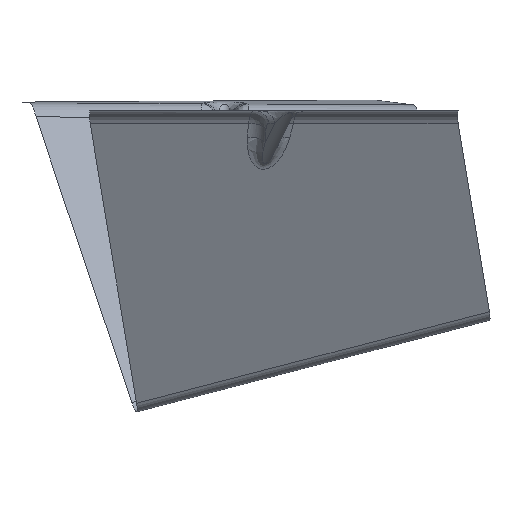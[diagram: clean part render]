
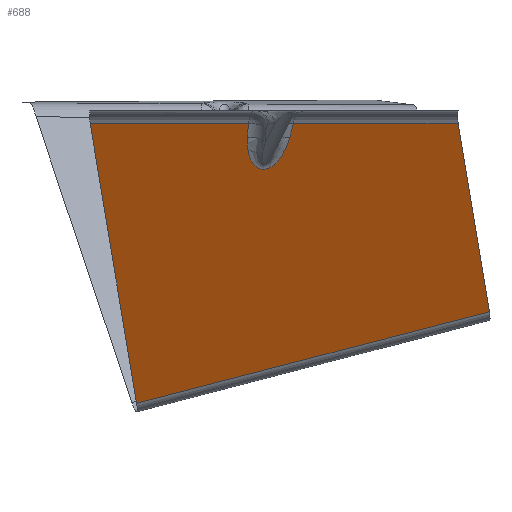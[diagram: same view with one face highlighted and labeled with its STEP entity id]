
A CAD part, left-side view. The second image highlights one B-rep face of the part: STEP entity #688.
In plain terms, the highlighted planar face has unit normal (-0.83, -0.249, -0.5).
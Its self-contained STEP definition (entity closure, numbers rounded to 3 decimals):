
#254=CARTESIAN_POINT('Vertex',(-84.893,6.994,-1.45)) ;
#277=CARTESIAN_POINT('Line Origine',(-68.013,8.977,-30.441)) ;
#281=CARTESIAN_POINT('Vertex',(-82.756,7.245,-5.12)) ;
#570=CARTESIAN_POINT('Control Point',(-79.304,-4.263,-5.121)) ;
#571=CARTESIAN_POINT('Control Point',(-79.101,-4.161,-5.507)) ;
#572=CARTESIAN_POINT('Control Point',(-78.902,-4.049,-5.894)) ;
#573=CARTESIAN_POINT('Control Point',(-78.706,-3.927,-6.279)) ;
#574=CARTESIAN_POINT('Control Point',(-78.327,-3.664,-7.039)) ;
#575=CARTESIAN_POINT('Control Point',(-77.965,-3.357,-7.793)) ;
#576=CARTESIAN_POINT('Control Point',(-77.79,-3.195,-8.164)) ;
#577=CARTESIAN_POINT('Control Point',(-77.466,-2.862,-8.867)) ;
#578=CARTESIAN_POINT('Control Point',(-77.162,-2.48,-9.562)) ;
#579=CARTESIAN_POINT('Control Point',(-77.021,-2.287,-9.891)) ;
#580=CARTESIAN_POINT('Control Point',(-76.771,-1.902,-10.498)) ;
#581=CARTESIAN_POINT('Control Point',(-76.545,-1.467,-11.09)) ;
#582=CARTESIAN_POINT('Control Point',(-76.446,-1.253,-11.36)) ;
#583=CARTESIAN_POINT('Control Point',(-76.279,-0.841,-11.841)) ;
#584=CARTESIAN_POINT('Control Point',(-76.142,-0.376,-12.301)) ;
#585=CARTESIAN_POINT('Control Point',(-76.087,-0.155,-12.502)) ;
#586=CARTESIAN_POINT('Control Point',(-75.987,0.351,-12.92)) ;
#587=CARTESIAN_POINT('Control Point',(-75.938,0.93,-13.29)) ;
#588=CARTESIAN_POINT('Control Point',(-75.93,1.269,-13.472)) ;
#589=CARTESIAN_POINT('Control Point',(-75.957,1.791,-13.686)) ;
#590=CARTESIAN_POINT('Control Point',(-76.053,2.35,-13.805)) ;
#591=CARTESIAN_POINT('Control Point',(-76.089,2.522,-13.832)) ;
#592=CARTESIAN_POINT('Control Point',(-76.169,2.849,-13.86)) ;
#593=CARTESIAN_POINT('Control Point',(-76.273,3.171,-13.849)) ;
#594=CARTESIAN_POINT('Control Point',(-76.327,3.32,-13.834)) ;
#595=CARTESIAN_POINT('Control Point',(-76.438,3.601,-13.789)) ;
#596=CARTESIAN_POINT('Control Point',(-76.562,3.866,-13.715)) ;
#597=CARTESIAN_POINT('Control Point',(-76.624,3.988,-13.674)) ;
#598=CARTESIAN_POINT('Control Point',(-76.919,4.537,-13.456)) ;
#599=CARTESIAN_POINT('Control Point',(-77.245,4.986,-13.139)) ;
#600=CARTESIAN_POINT('Control Point',(-77.505,5.286,-12.858)) ;
#601=CARTESIAN_POINT('Control Point',(-77.942,5.724,-12.351)) ;
#602=CARTESIAN_POINT('Control Point',(-78.374,6.066,-11.804)) ;
#603=CARTESIAN_POINT('Control Point',(-78.551,6.194,-11.574)) ;
#604=CARTESIAN_POINT('Control Point',(-78.952,6.458,-11.04)) ;
#605=CARTESIAN_POINT('Control Point',(-79.346,6.665,-10.49)) ;
#606=CARTESIAN_POINT('Control Point',(-79.564,6.767,-10.178)) ;
#607=CARTESIAN_POINT('Control Point',(-80.051,6.966,-9.47)) ;
#608=CARTESIAN_POINT('Control Point',(-80.526,7.104,-8.75)) ;
#609=CARTESIAN_POINT('Control Point',(-80.787,7.164,-8.347)) ;
#610=CARTESIAN_POINT('Control Point',(-81.349,7.263,-7.464)) ;
#611=CARTESIAN_POINT('Control Point',(-81.895,7.295,-6.574)) ;
#612=CARTESIAN_POINT('Control Point',(-82.187,7.295,-6.09)) ;
#613=CARTESIAN_POINT('Control Point',(-82.474,7.278,-5.606)) ;
#614=CARTESIAN_POINT('Control Point',(-82.756,7.245,-5.12)) ;
#615=CARTESIAN_POINT('Vertex',(-79.304,-4.263,-5.121)) ;
#633=CARTESIAN_POINT('Axis2P3D Location',(-37.984,-11.395,-70.12)) ;
#638=CARTESIAN_POINT('Line Origine',(-80.265,-4.746,-3.285)) ;
#642=CARTESIAN_POINT('Vertex',(-81.226,-5.23,-1.45)) ;
#645=CARTESIAN_POINT('Line Origine',(-91.344,28.496,-1.45)) ;
#649=CARTESIAN_POINT('Vertex',(-97.794,49.997,-1.45)) ;
#652=CARTESIAN_POINT('Line Origine',(-72.996,43.693,-39.452)) ;
#656=CARTESIAN_POINT('Vertex',(-48.198,37.388,-77.455)) ;
#659=CARTESIAN_POINT('Line Origine',(-41.318,-10.548,-65.012)) ;
#663=CARTESIAN_POINT('Vertex',(-34.437,-58.484,-52.57)) ;
#666=CARTESIAN_POINT('Line Origine',(-51.116,-54.243,-27.01)) ;
#670=CARTESIAN_POINT('Vertex',(-67.794,-50.003,-1.45)) ;
#673=CARTESIAN_POINT('Line Origine',(-74.51,-27.616,-1.45)) ;
#278=DIRECTION('Vector Direction',(0.502,0.059,-0.863)) ;
#634=DIRECTION('Axis2P3D Direction',(0.83,0.249,0.5)) ;
#635=DIRECTION('Axis2P3D XDirection',(0.541,-0.138,-0.83)) ;
#639=DIRECTION('Vector Direction',(-0.452,-0.227,0.863)) ;
#646=DIRECTION('Vector Direction',(0.287,-0.958,0.)) ;
#653=DIRECTION('Vector Direction',(0.541,-0.138,-0.83)) ;
#660=DIRECTION('Vector Direction',(0.138,-0.959,0.249)) ;
#667=DIRECTION('Vector Direction',(-0.541,0.138,0.83)) ;
#674=DIRECTION('Vector Direction',(0.287,-0.958,0.)) ;
#636=AXIS2_PLACEMENT_3D('Plane Axis2P3D',#633,#634,#635) ;
#679=ORIENTED_EDGE('',*,*,#644,.T.) ;
#680=ORIENTED_EDGE('',*,*,#617,.T.) ;
#681=ORIENTED_EDGE('',*,*,#283,.T.) ;
#682=ORIENTED_EDGE('',*,*,#651,.F.) ;
#683=ORIENTED_EDGE('',*,*,#658,.T.) ;
#684=ORIENTED_EDGE('',*,*,#665,.T.) ;
#685=ORIENTED_EDGE('',*,*,#672,.T.) ;
#686=ORIENTED_EDGE('',*,*,#677,.F.) ;
#279=VECTOR('Line Direction',#278,1.) ;
#640=VECTOR('Line Direction',#639,1.) ;
#647=VECTOR('Line Direction',#646,1.) ;
#654=VECTOR('Line Direction',#653,1.) ;
#661=VECTOR('Line Direction',#660,1.) ;
#668=VECTOR('Line Direction',#667,1.) ;
#675=VECTOR('Line Direction',#674,1.) ;
#688=ADVANCED_FACE('Extract.1',(#687),#637,.F.) ;
#569=B_SPLINE_CURVE_WITH_KNOTS('',5,(#570,#571,#572,#573,#574,#575,#576,#577,#578,#579,#580,#581,#582,#583,#584,#585,#586,#587,#588,#589,#590,#591,#592,#593,#594,#595,#596,#597,#598,#599,#600,#601,#602,#603,#604,#605,#606,#607,#608,#609,#610,#611,#612,#613,#614),.UNSPECIFIED.,.F.,.U.,(6,3,3,3,3,3,3,3,3,3,3,3,3,3,6),(21.501,24.489,27.39,30.03,32.306,34.16,36.314,37.252,38.09,38.869,41.707,43.699,46.244,49.416,53.164),.UNSPECIFIED.) ;
#283=EDGE_CURVE('',#282,#255,#280,.F.) ;
#617=EDGE_CURVE('',#616,#282,#569,.T.) ;
#644=EDGE_CURVE('',#643,#616,#641,.F.) ;
#651=EDGE_CURVE('',#650,#255,#648,.T.) ;
#658=EDGE_CURVE('',#650,#657,#655,.T.) ;
#665=EDGE_CURVE('',#657,#664,#662,.T.) ;
#672=EDGE_CURVE('',#664,#671,#669,.T.) ;
#677=EDGE_CURVE('',#643,#671,#676,.T.) ;
#678=EDGE_LOOP('',(#679,#680,#681,#682,#683,#684,#685,#686)) ;
#687=FACE_OUTER_BOUND('',#678,.T.) ;
#280=LINE('Line',#277,#279) ;
#641=LINE('Line',#638,#640) ;
#648=LINE('Line',#645,#647) ;
#655=LINE('Line',#652,#654) ;
#662=LINE('Line',#659,#661) ;
#669=LINE('Line',#666,#668) ;
#676=LINE('Line',#673,#675) ;
#637=PLANE('',#636) ;
#255=VERTEX_POINT('',#254) ;
#282=VERTEX_POINT('',#281) ;
#616=VERTEX_POINT('',#615) ;
#643=VERTEX_POINT('',#642) ;
#650=VERTEX_POINT('',#649) ;
#657=VERTEX_POINT('',#656) ;
#664=VERTEX_POINT('',#663) ;
#671=VERTEX_POINT('',#670) ;
